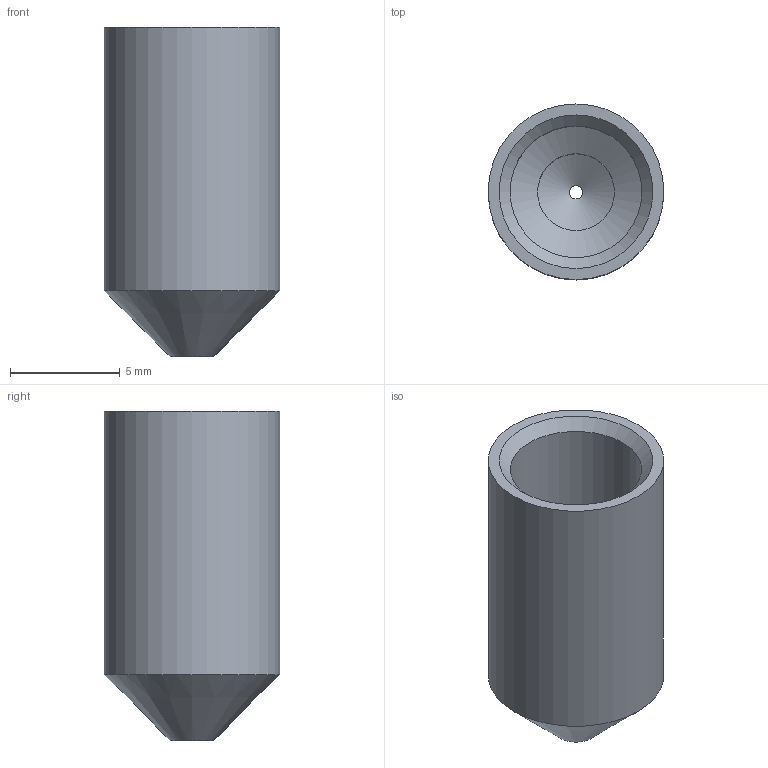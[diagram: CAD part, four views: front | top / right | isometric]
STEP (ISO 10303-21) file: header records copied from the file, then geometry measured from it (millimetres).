
FILE_DESCRIPTION((''),'2;1');
FILE_NAME('C:\Documents and Settings\mika1\Mes documents\pulverisation\MarcheLully\NewBuse\Couvercle.stp','2016-07-28T21:24:12',('mika1'),(''),'Autodesk Inventor 2008','Autodesk Inventor 2008','');
FILE_SCHEMA(('AUTOMOTIVE_DESIGN { 1 0 10303 214 1 1 1 1 }'));
Length unit declared in the file: millimetre
Products named in the file (1): Couvercle
Bounding box: 8 x 8 x 15 mm (x, y, z)
Volume: 382.3 mm3; surface area: 620.2 mm2
Topology: 1 solids, 1 shells, 10 faces, 20 edges, 12 vertices
Faces by surface type: bspline 5, cone 2, plane 2, cylinder 1
Full cylindrical faces by diameter (mm): 8 x1
Entity records: 299 total; most frequent: CARTESIAN_POINT 116, DIRECTION 32, ORIENTED_EDGE 20, EDGE_LOOP 20, AXIS2_PLACEMENT_3D 16, VERTEX_POINT 10, CIRCLE 10, EDGE_CURVE 10
